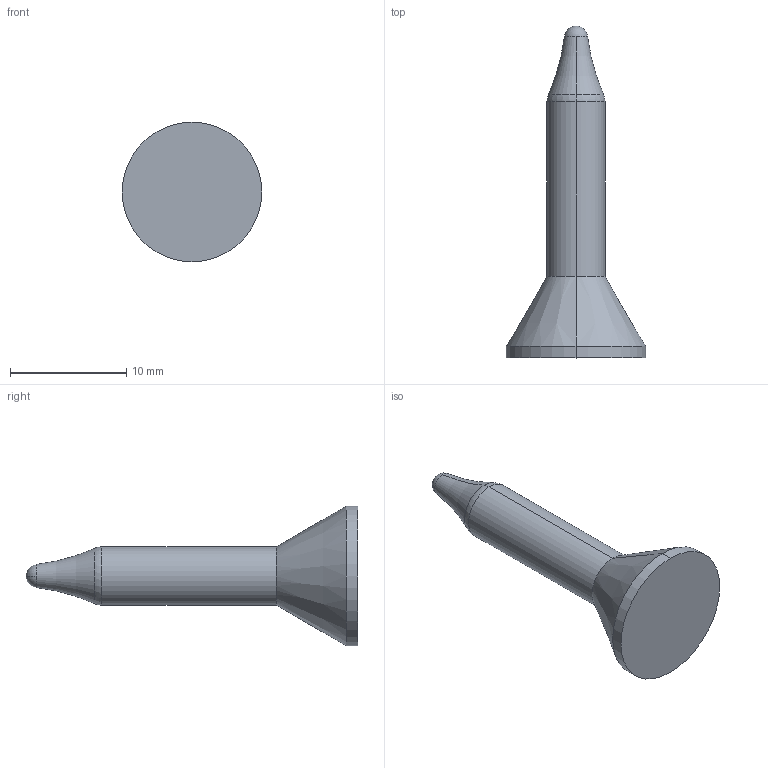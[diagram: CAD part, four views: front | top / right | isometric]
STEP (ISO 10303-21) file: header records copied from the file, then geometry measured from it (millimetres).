
FILE_DESCRIPTION (( 'STEP AP203' ), '1' );
FILE_NAME ('KCF-SW-PN-4P.STEP', '2022-04-04T07:58:21', ( '' ), ( '' ), 'SwSTEP 2.0', 'SolidWorks 2015', '' );
FILE_SCHEMA (( 'CONFIG_CONTROL_DESIGN' ));
Length unit declared in the file: millimetre
Products named in the file (2): KCF-SW-PN-4P
Bounding box: 12 x 28.5 x 12 mm (x, y, z)
Volume: 820.6 mm3; surface area: 638 mm2
Topology: 1 solids, 1 shells, 13 faces, 26 edges, 15 vertices
Faces by surface type: cylinder 4, torus 4, cone 2, sphere 2, plane 1
Entity records: 499 total; most frequent: DIRECTION 76, CARTESIAN_POINT 56, ORIENTED_EDGE 52, AXIS2_PLACEMENT_3D 35, EDGE_CURVE 26, CIRCLE 20, PERSON_AND_ORGANIZATION 16, VERTEX_POINT 15
